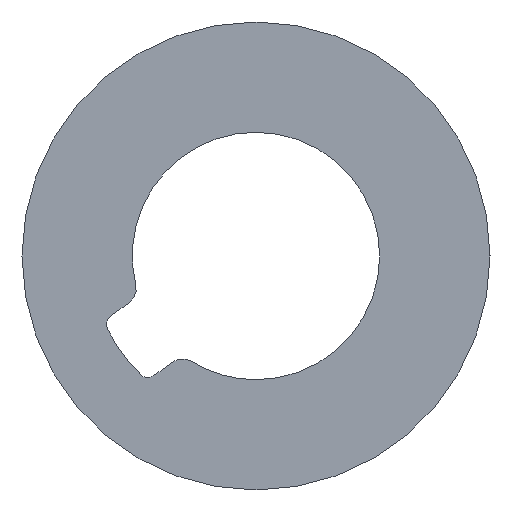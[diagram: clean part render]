
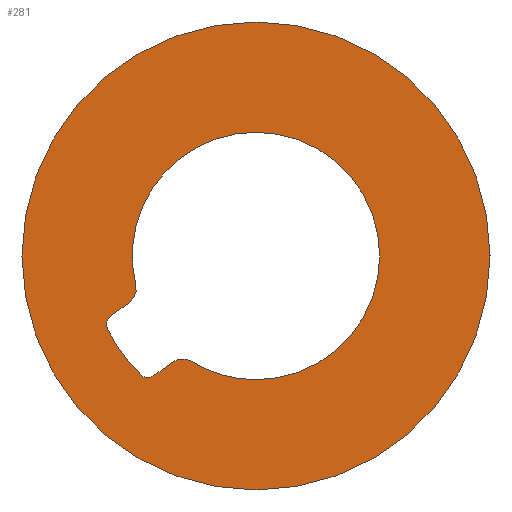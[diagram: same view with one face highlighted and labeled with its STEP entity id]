
A CAD part, left-side view. The second image highlights one B-rep face of the part: STEP entity #281.
In plain terms, the highlighted planar face has unit normal (-1, 0, 0).
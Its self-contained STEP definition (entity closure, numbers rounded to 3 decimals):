
#25 = AXIS2_PLACEMENT_3D ( 'NONE', #408, #407, #406 ) ;
#27 = AXIS2_PLACEMENT_3D ( 'NONE', #420, #419, #418 ) ;
#34 = AXIS2_PLACEMENT_3D ( 'NONE', #454, #453, #452 ) ;
#36 = AXIS2_PLACEMENT_3D ( 'NONE', #468, #467, #466 ) ;
#38 = AXIS2_PLACEMENT_3D ( 'NONE', #479, #478, #477 ) ;
#40 = AXIS2_PLACEMENT_3D ( 'NONE', #493, #492, #491 ) ;
#42 = AXIS2_PLACEMENT_3D ( 'NONE', #522, #521, #520 ) ;
#43 = AXIS2_PLACEMENT_3D ( 'NONE', #354, #525, #524 ) ;
#44 = AXIS2_PLACEMENT_3D ( 'NONE', #367, #362, #358 ) ;
#45 = AXIS2_PLACEMENT_3D ( 'NONE', #387, #383, #379 ) ;
#47 = AXIS2_PLACEMENT_3D ( 'NONE', #421, #417, #414 ) ;
#48 = AXIS2_PLACEMENT_3D ( 'NONE', #432, #429, #425 ) ;
#49 = EDGE_CURVE ( 'NONE', #469, #440, #230, .T. ) ;
#50 = EDGE_CURVE ( 'NONE', #516, #451, #228, .T. ) ;
#53 = EDGE_CURVE ( 'NONE', #458, #483, #222, .T. ) ;
#54 = EDGE_CURVE ( 'NONE', #483, #490, #223, .T. ) ;
#55 = EDGE_CURVE ( 'NONE', #490, #516, #218, .T. ) ;
#56 = EDGE_CURVE ( 'NONE', #451, #501, #216, .T. ) ;
#57 = EDGE_CURVE ( 'NONE', #501, #465, #214, .T. ) ;
#66 = EDGE_CURVE ( 'NONE', #444, #519, #196, .T. ) ;
#70 = EDGE_CURVE ( 'NONE', #510, #480, #188, .T. ) ;
#73 = EDGE_CURVE ( 'NONE', #440, #510, #182, .T. ) ;
#77 = EDGE_CURVE ( 'NONE', #480, #458, #174, .T. ) ;
#86 = EDGE_CURVE ( 'NONE', #519, #444, #156, .T. ) ;
#87 = EDGE_CURVE ( 'NONE', #465, #469, #157, .T. ) ;
#93 = ORIENTED_EDGE ( 'NONE', *, *, #87, .T. ) ;
#94 = ORIENTED_EDGE ( 'NONE', *, *, #66, .F. ) ;
#95 = ORIENTED_EDGE ( 'NONE', *, *, #86, .F. ) ;
#96 = ORIENTED_EDGE ( 'NONE', *, *, #49, .T. ) ;
#97 = ORIENTED_EDGE ( 'NONE', *, *, #70, .T. ) ;
#98 = ORIENTED_EDGE ( 'NONE', *, *, #73, .T. ) ;
#104 = ORIENTED_EDGE ( 'NONE', *, *, #54, .T. ) ;
#105 = ORIENTED_EDGE ( 'NONE', *, *, #53, .T. ) ;
#106 = ORIENTED_EDGE ( 'NONE', *, *, #77, .T. ) ;
#107 = ORIENTED_EDGE ( 'NONE', *, *, #56, .T. ) ;
#108 = ORIENTED_EDGE ( 'NONE', *, *, #50, .T. ) ;
#109 = ORIENTED_EDGE ( 'NONE', *, *, #55, .T. ) ;
#110 = ORIENTED_EDGE ( 'NONE', *, *, #57, .T. ) ;
#151 = FACE_BOUND ( 'NONE', #235, .T. ) ;
#152 = FACE_OUTER_BOUND ( 'NONE', #236, .T. ) ;
#155 = VECTOR ( 'NONE', #415, 1000. ) ;
#156 = CIRCLE ( 'NONE', #27, 7. ) ;
#157 = LINE ( 'NONE', #416, #155 ) ;
#174 = CIRCLE ( 'NONE', #34, 3.7 ) ;
#182 = CIRCLE ( 'NONE', #36, 3.7 ) ;
#188 = CIRCLE ( 'NONE', #38, 3.7 ) ;
#196 = CIRCLE ( 'NONE', #40, 7. ) ;
#214 = CIRCLE ( 'NONE', #42, 0.3 ) ;
#216 = CIRCLE ( 'NONE', #43, 4.95 ) ;
#218 = CIRCLE ( 'NONE', #44, 0.3 ) ;
#219 = VECTOR ( 'NONE', #371, 1000. ) ;
#222 = CIRCLE ( 'NONE', #45, 0.5 ) ;
#223 = LINE ( 'NONE', #375, #219 ) ;
#228 = CIRCLE ( 'NONE', #47, 0.3 ) ;
#230 = CIRCLE ( 'NONE', #48, 0.5 ) ;
#235 = EDGE_LOOP ( 'NONE', ( #93, #96, #98, #97, #106, #105, #104, #109, #108, #107, #110 ) ) ;
#236 = EDGE_LOOP ( 'NONE', ( #95, #94 ) ) ;
#281 = ADVANCED_FACE ( 'NONE', ( #152, #151 ), #410, .F. ) ;
#318 = CARTESIAN_POINT ( 'NONE',  ( -289.5, 0., 7. ) ) ;
#319 = CARTESIAN_POINT ( 'NONE',  ( -289.5, 3.236, -3.64 ) ) ;
#321 = CARTESIAN_POINT ( 'NONE',  ( -289.5, 0., 3.7 ) ) ;
#324 = CARTESIAN_POINT ( 'NONE',  ( -289.5, 4.445, -2.177 ) ) ;
#327 = CARTESIAN_POINT ( 'NONE',  ( -289.5, 3.059, -3.582 ) ) ;
#329 = CARTESIAN_POINT ( 'NONE',  ( -289.5, 2.495, -3.172 ) ) ;
#330 = CARTESIAN_POINT ( 'NONE',  ( -289.5, 0., -3.7 ) ) ;
#333 = CARTESIAN_POINT ( 'NONE',  ( -289.5, 3.788, -1.393 ) ) ;
#334 = CARTESIAN_POINT ( 'NONE',  ( -289.5, 4.352, -1.803 ) ) ;
#336 = CARTESIAN_POINT ( 'NONE',  ( -289.5, 1.939, -3.151 ) ) ;
#338 = CARTESIAN_POINT ( 'NONE',  ( -289.5, 3.444, -3.555 ) ) ;
#340 = CARTESIAN_POINT ( 'NONE',  ( -289.5, 0., -7. ) ) ;
#341 = CARTESIAN_POINT ( 'NONE',  ( -289.5, 3.596, -0.87 ) ) ;
#354 = CARTESIAN_POINT ( 'NONE',  ( -289.5, 0., 0. ) ) ;
#358 = DIRECTION ( 'NONE',  ( 0., 0., 1. ) ) ;
#362 = DIRECTION ( 'NONE',  ( 1., 0., 0. ) ) ;
#367 = CARTESIAN_POINT ( 'NONE',  ( -289.5, 3.236, -3.34 ) ) ;
#371 = DIRECTION ( 'NONE',  ( 0., 0.809, -0.588 ) ) ;
#375 = CARTESIAN_POINT ( 'NONE',  ( -289.5, 3.059, -3.582 ) ) ;
#379 = DIRECTION ( 'NONE',  ( 0., 0., -1. ) ) ;
#383 = DIRECTION ( 'NONE',  ( -1., 0., 0. ) ) ;
#387 = CARTESIAN_POINT ( 'NONE',  ( -289.5, 2.201, -3.577 ) ) ;
#406 = DIRECTION ( 'NONE',  ( 0., 0., -1. ) ) ;
#407 = DIRECTION ( 'NONE',  ( 1., 0., 0. ) ) ;
#408 = CARTESIAN_POINT ( 'NONE',  ( -289.5, 0., 0. ) ) ;
#410 = PLANE ( 'NONE',  #25 ) ;
#414 = DIRECTION ( 'NONE',  ( 0., 0., 1. ) ) ;
#415 = DIRECTION ( 'NONE',  ( 0., -0.809, 0.588 ) ) ;
#416 = CARTESIAN_POINT ( 'NONE',  ( -289.5, 3.788, -1.393 ) ) ;
#417 = DIRECTION ( 'NONE',  ( 1., 0., 0. ) ) ;
#418 = DIRECTION ( 'NONE',  ( 0., 0., -1. ) ) ;
#419 = DIRECTION ( 'NONE',  ( 1., 0., 0. ) ) ;
#420 = CARTESIAN_POINT ( 'NONE',  ( -289.5, 0., 0. ) ) ;
#421 = CARTESIAN_POINT ( 'NONE',  ( -289.5, 3.236, -3.34 ) ) ;
#425 = DIRECTION ( 'NONE',  ( 0., 0., 1. ) ) ;
#429 = DIRECTION ( 'NONE',  ( -1., 0., 0. ) ) ;
#432 = CARTESIAN_POINT ( 'NONE',  ( -289.5, 4.082, -0.988 ) ) ;
#440 = VERTEX_POINT ( 'NONE', #341 ) ;
#444 = VERTEX_POINT ( 'NONE', #340 ) ;
#451 = VERTEX_POINT ( 'NONE', #338 ) ;
#452 = DIRECTION ( 'NONE',  ( 0., 0., -1. ) ) ;
#453 = DIRECTION ( 'NONE',  ( 1., 0., 0. ) ) ;
#454 = CARTESIAN_POINT ( 'NONE',  ( -289.5, 0., 0. ) ) ;
#458 = VERTEX_POINT ( 'NONE', #336 ) ;
#465 = VERTEX_POINT ( 'NONE', #334 ) ;
#466 = DIRECTION ( 'NONE',  ( 0., 0., -1. ) ) ;
#467 = DIRECTION ( 'NONE',  ( 1., 0., 0. ) ) ;
#468 = CARTESIAN_POINT ( 'NONE',  ( -289.5, 0., 0. ) ) ;
#469 = VERTEX_POINT ( 'NONE', #333 ) ;
#477 = DIRECTION ( 'NONE',  ( 0., 0., -1. ) ) ;
#478 = DIRECTION ( 'NONE',  ( 1., 0., 0. ) ) ;
#479 = CARTESIAN_POINT ( 'NONE',  ( -289.5, 0., 0. ) ) ;
#480 = VERTEX_POINT ( 'NONE', #330 ) ;
#483 = VERTEX_POINT ( 'NONE', #329 ) ;
#490 = VERTEX_POINT ( 'NONE', #327 ) ;
#491 = DIRECTION ( 'NONE',  ( 0., 0., -1. ) ) ;
#492 = DIRECTION ( 'NONE',  ( 1., 0., 0. ) ) ;
#493 = CARTESIAN_POINT ( 'NONE',  ( -289.5, 0., 0. ) ) ;
#501 = VERTEX_POINT ( 'NONE', #324 ) ;
#510 = VERTEX_POINT ( 'NONE', #321 ) ;
#516 = VERTEX_POINT ( 'NONE', #319 ) ;
#519 = VERTEX_POINT ( 'NONE', #318 ) ;
#520 = DIRECTION ( 'NONE',  ( 0., 0., -1. ) ) ;
#521 = DIRECTION ( 'NONE',  ( 1., 0., 0. ) ) ;
#522 = CARTESIAN_POINT ( 'NONE',  ( -289.5, 4.176, -2.045 ) ) ;
#524 = DIRECTION ( 'NONE',  ( 0., 0., 1. ) ) ;
#525 = DIRECTION ( 'NONE',  ( 1., 0., 0. ) ) ;
